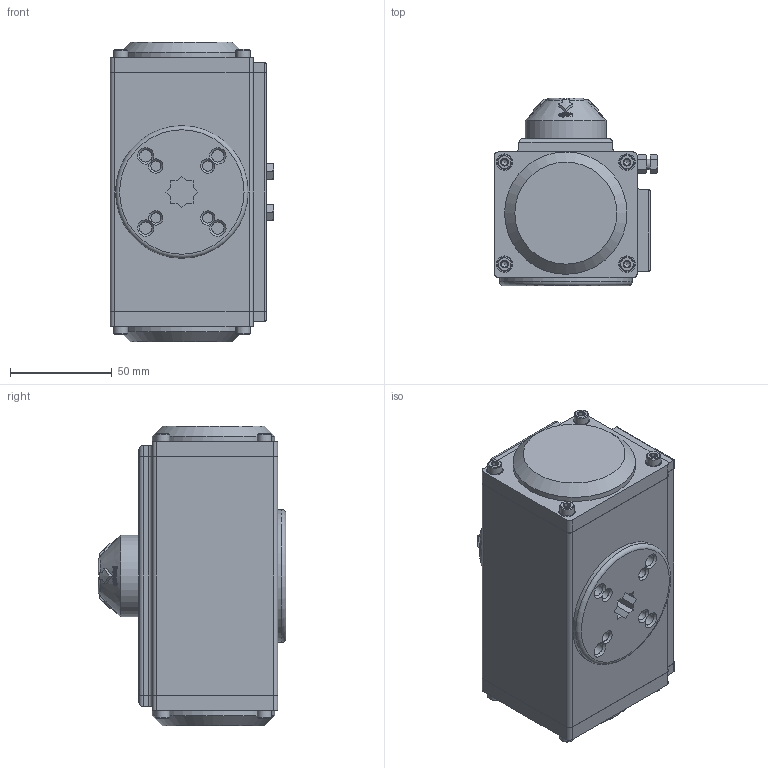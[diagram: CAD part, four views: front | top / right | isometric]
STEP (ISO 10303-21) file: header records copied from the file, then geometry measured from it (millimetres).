
FILE_DESCRIPTION(('STEP AP242'), '1');
FILE_NAME('PA-DA-052 砅槻斁瀔魤鍱 DN.ru', '2026-04-17T16:48:35', ('DN.ru'), (''), 'C3D Converter', 'C3D Toolkit', '');
FILE_SCHEMA(('AP242_MANAGED_MODEL_BASED_3D_ENGINEERING_MIM_LF { 1 0 10303 442 1 1 4 }'));
Length unit declared in the file: millimetre
Products named in the file (1): PA-DA-052 
Bounding box: 80 x 92 x 147 mm (x, y, z)
Volume: 699826.7 mm3; surface area: 75742.3 mm2
Topology: 1 solids, 4 shells, 1003 faces, 2621 edges, 1709 vertices
Faces by surface type: plane 441, extrusion 346, cylinder 110, cone 91, torus 15
Full cylindrical faces by diameter (mm): 3 x8, 4 x8, 4.724 x2, 5 x16, 6 x4, 7 x8, 8 x17, 32 x2, 40 x1, 60 x2, 65 x1
Entity records: 54418 total; most frequent: CARTESIAN_POINT 24151, ORIENTED_EDGE 4924, DIRECTION 3369, EDGE_CURVE 2462, VERTEX_POINT 1685, B_SPLINE_CURVE_WITH_KNOTS 1430, VECTOR 1379, EDGE_LOOP 1241
